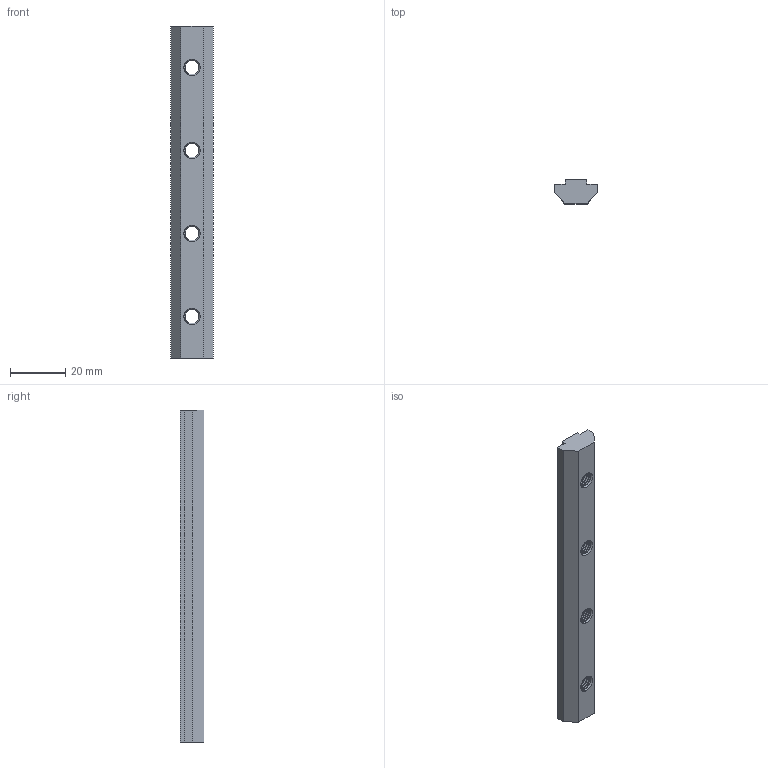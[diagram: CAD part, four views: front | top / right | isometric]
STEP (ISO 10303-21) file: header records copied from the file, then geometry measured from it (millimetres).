
FILE_DESCRIPTION (( 'STEP AP203' ), '1' );
FILE_NAME ('84-CE-ISC3030-8.STEP', '2015-07-09T08:30:40', ( '' ), ( '' ), 'SwSTEP 2.0', 'SolidWorks 2013', '' );
FILE_SCHEMA (( 'CONFIG_CONTROL_DESIGN' ));
Length unit declared in the file: millimetre
Products named in the file (1): 84-CE-ISC3030-8
Bounding box: 15.5 x 8.5 x 120 mm (x, y, z)
Volume: 11874.9 mm3; surface area: 6108 mm2
Topology: 1 solids, 1 shells, 112 faces, 298 edges, 188 vertices
Faces by surface type: cylinder 68, cone 24, plane 12, bspline 8
Entity records: 7879 total; most frequent: CARTESIAN_POINT 5463, ORIENTED_EDGE 596, DIRECTION 384, EDGE_CURVE 298, VERTEX_POINT 188, AXIS2_PLACEMENT_3D 137, EDGE_LOOP 120, ADVANCED_FACE 112
